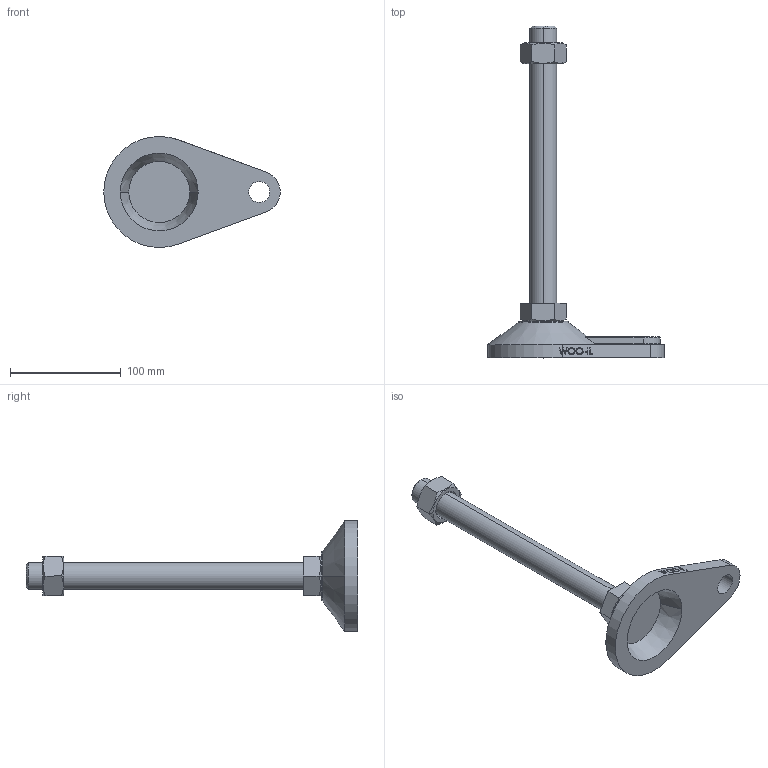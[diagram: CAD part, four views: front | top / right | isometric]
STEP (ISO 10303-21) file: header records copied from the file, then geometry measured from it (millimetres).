
FILE_DESCRIPTION (( 'STEP AP214' ), '1' );
FILE_NAME ('PAD-A100-M24-250.step', '2021-03-08T08:08:52', ( '' ), ( '' ), 'SwSTEP 2.0', 'SolidWorks 2019', '' );
FILE_SCHEMA (( 'AUTOMOTIVE_DESIGN' ));
Length unit declared in the file: millimetre
Products named in the file (2): PAD-A100-M24-250
Bounding box: 159 x 299 x 100 mm (x, y, z)
Volume: 309674.4 mm3; surface area: 60531.1 mm2
Topology: 3 solids, 3 shells, 112 faces, 271 edges, 174 vertices
Faces by surface type: plane 61, cylinder 17, cone 16, bspline 16, torus 2
Entity records: 4831 total; most frequent: CARTESIAN_POINT 2257, ORIENTED_EDGE 542, DIRECTION 462, EDGE_CURVE 271, VERTEX_POINT 174, VECTOR 156, LINE 156, AXIS2_PLACEMENT_3D 153
